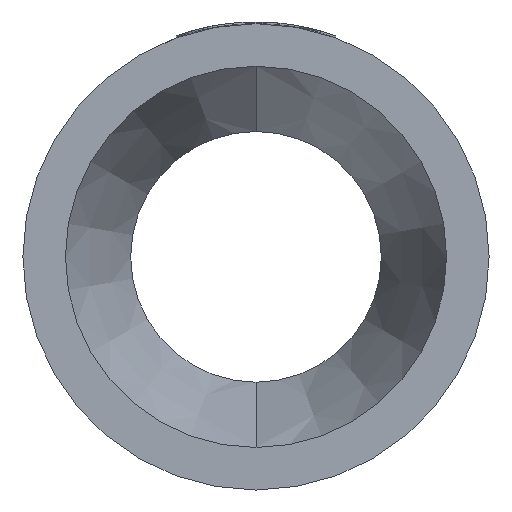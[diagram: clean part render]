
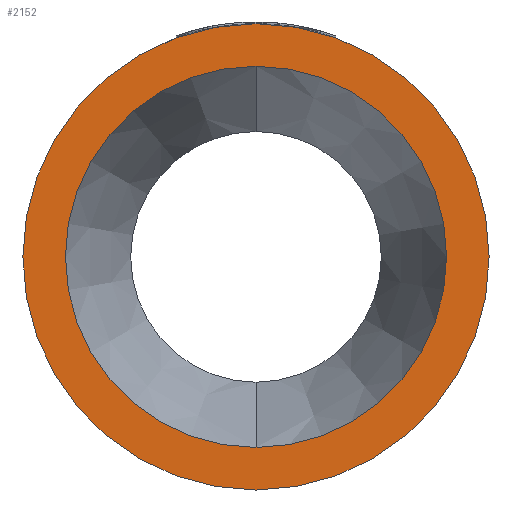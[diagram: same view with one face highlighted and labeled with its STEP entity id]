
A CAD part, left-side view. The second image highlights one B-rep face of the part: STEP entity #2152.
In plain terms, the highlighted planar face has unit normal (-1, 0, 0).
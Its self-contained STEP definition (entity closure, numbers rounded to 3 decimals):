
#47 = AXIS2_PLACEMENT_3D ( 'NONE', #1349, #1323, #1283 ) ;
#198 = DIRECTION ( 'NONE',  ( 0., 0., 1. ) ) ;
#203 = DIRECTION ( 'NONE',  ( -1., 0., 0. ) ) ;
#209 = CARTESIAN_POINT ( 'NONE',  ( 0., 0., 0. ) ) ;
#213 = ORIENTED_EDGE ( 'NONE', *, *, #1927, .T. ) ;
#525 = DIRECTION ( 'NONE',  ( 0., 0., -1. ) ) ;
#535 = DIRECTION ( 'NONE',  ( 1., 0., 0. ) ) ;
#546 = CARTESIAN_POINT ( 'NONE',  ( 0., 51.1, 0. ) ) ;
#561 = FACE_OUTER_BOUND ( 'NONE', #1333, .T. ) ;
#602 = CARTESIAN_POINT ( 'NONE',  ( 0., 0., 62.5 ) ) ;
#609 = PLANE ( 'NONE',  #3083 ) ;
#629 = FACE_BOUND ( 'NONE', #2299, .T. ) ;
#955 = DIRECTION ( 'NONE',  ( 0., 0., 1. ) ) ;
#959 = DIRECTION ( 'NONE',  ( -1., 0., 0. ) ) ;
#976 = CARTESIAN_POINT ( 'NONE',  ( 0., 0., 0. ) ) ;
#978 = CIRCLE ( 'NONE', #1008, 62.5 ) ;
#984 = CARTESIAN_POINT ( 'NONE',  ( 0., 0., -51.1 ) ) ;
#1005 = DIRECTION ( 'NONE',  ( 0., 0., 1. ) ) ;
#1008 = AXIS2_PLACEMENT_3D ( 'NONE', #209, #203, #198 ) ;
#1012 = DIRECTION ( 'NONE',  ( -1., 0., 0. ) ) ;
#1023 = CARTESIAN_POINT ( 'NONE',  ( 0., 0., 0. ) ) ;
#1146 = ORIENTED_EDGE ( 'NONE', *, *, #2855, .F. ) ;
#1283 = DIRECTION ( 'NONE',  ( 0., 0., 1. ) ) ;
#1323 = DIRECTION ( 'NONE',  ( -1., 0., 0. ) ) ;
#1333 = EDGE_LOOP ( 'NONE', ( #213, #2485 ) ) ;
#1349 = CARTESIAN_POINT ( 'NONE',  ( 0., 0., 0. ) ) ;
#1386 = CARTESIAN_POINT ( 'NONE',  ( 0., 0., -62.5 ) ) ;
#1576 = VERTEX_POINT ( 'NONE', #984 ) ;
#1761 = VERTEX_POINT ( 'NONE', #602 ) ;
#1893 = CIRCLE ( 'NONE', #47, 51.1 ) ;
#1927 = EDGE_CURVE ( 'NONE', #1761, #2783, #978, .T. ) ;
#2091 = AXIS2_PLACEMENT_3D ( 'NONE', #1023, #1012, #1005 ) ;
#2124 = EDGE_CURVE ( 'NONE', #1576, #2209, #1893, .T. ) ;
#2152 = ADVANCED_FACE ( 'NONE', ( #629, #561 ), #609, .F. ) ;
#2209 = VERTEX_POINT ( 'NONE', #2434 ) ;
#2299 = EDGE_LOOP ( 'NONE', ( #1146, #3090 ) ) ;
#2434 = CARTESIAN_POINT ( 'NONE',  ( 0., 0., 51.1 ) ) ;
#2485 = ORIENTED_EDGE ( 'NONE', *, *, #2863, .T. ) ;
#2783 = VERTEX_POINT ( 'NONE', #1386 ) ;
#2855 = EDGE_CURVE ( 'NONE', #2209, #1576, #3026, .T. ) ;
#2863 = EDGE_CURVE ( 'NONE', #2783, #1761, #3032, .T. ) ;
#3026 = CIRCLE ( 'NONE', #2091, 51.1 ) ;
#3032 = CIRCLE ( 'NONE', #3413, 62.5 ) ;
#3083 = AXIS2_PLACEMENT_3D ( 'NONE', #546, #535, #525 ) ;
#3090 = ORIENTED_EDGE ( 'NONE', *, *, #2124, .F. ) ;
#3413 = AXIS2_PLACEMENT_3D ( 'NONE', #976, #959, #955 ) ;
